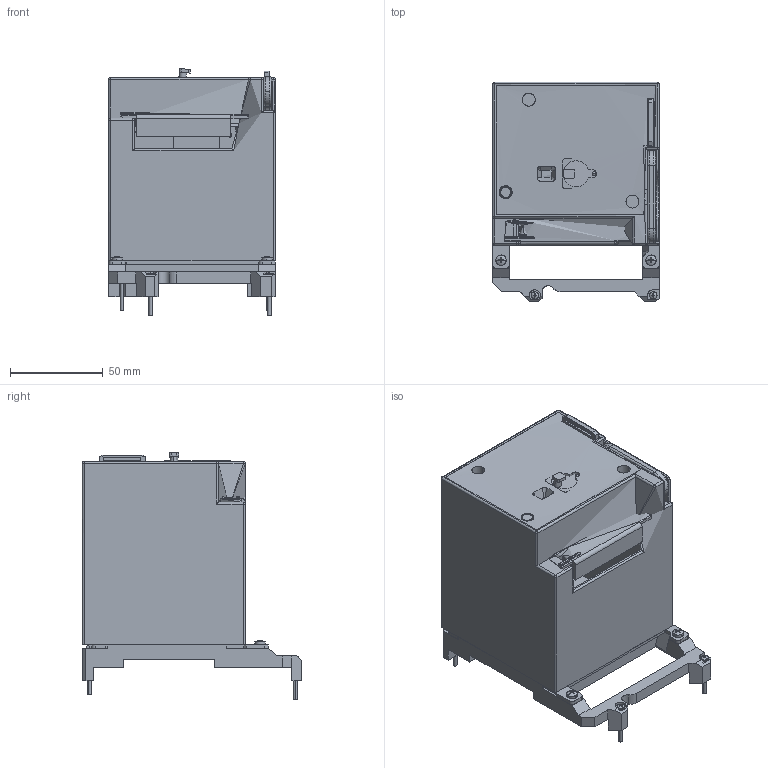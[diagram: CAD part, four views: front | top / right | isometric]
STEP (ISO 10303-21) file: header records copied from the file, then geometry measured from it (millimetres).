
FILE_DESCRIPTION (( 'STEP AP203' ), '1' );
FILE_NAME ('M5-125 160-µç²Ù.STEP', '2023-12-28T07:38:47', ( '' ), ( '' ), 'SwSTEP 2.0', 'SolidWorks 2018', '' );
FILE_SCHEMA (( 'CONFIG_CONTROL_DESIGN' ));
Length unit declared in the file: millimetre
Products named in the file (4): M5-125 160-萇紱.STEPEPEP; NDM5Z-160-3P-____-3D________20211210__.STEP__.STEP__.STEP.STEP; M5-125 160-萇紱2迄2“∩; 160-3.STEP.STEP
Assembly tree (3 placements, depth 4):
  M5-125 160-萇紱2迄2“∩
    M5-125 160-萇紱.STEPEPEP
      NDM5Z-160-3P-____-3D________20211210__.STEP__.STEP__.STEP.STEP
        160-3.STEP.STEP
Bounding box: 90 x 118.5 x 133.42 mm (x, y, z)
Surface area: 138605.1 mm2 (no closed solid volume)
Topology: 0 solids, 21 shells, 626 faces, 2158 edges, 1514 vertices
Faces by surface type: plane 353, cylinder 212, sphere 26, torus 21, cone 8, bspline 6
Entity records: 31054 total; most frequent: CARTESIAN_POINT 16747, ORIENTED_EDGE 3569, EDGE_CURVE 2136, B_SPLINE_CURVE_WITH_KNOTS 2134, VERTEX_POINT 1512, DIRECTION 1256, EDGE_LOOP 704, AXIS2_PLACEMENT_3D 628
